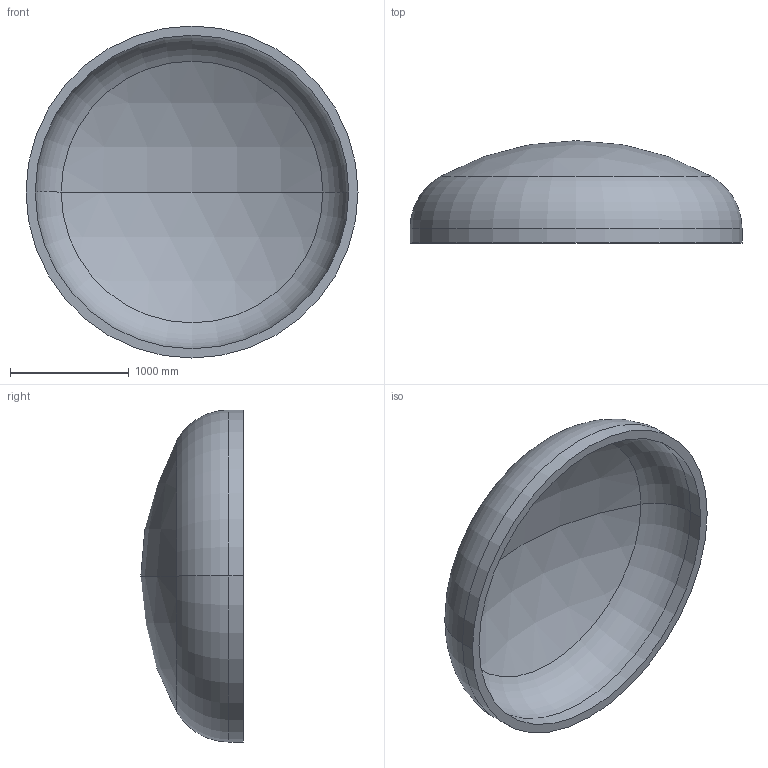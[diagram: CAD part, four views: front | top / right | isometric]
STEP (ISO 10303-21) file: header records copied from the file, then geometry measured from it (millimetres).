
FILE_DESCRIPTION (( 'STEP AP203' ), '1' );
FILE_NAME ('DIN 28013 Korbbogenform_-_Boden DIN 28013 - 2800 x 120 - I - s=78.step', '2016-07-01T17:11:37', ( '' ), ( '' ), 'SwSTEP 2.0', 'SolidWorks 2013', '' );
FILE_SCHEMA (( 'CONFIG_CONTROL_DESIGN' ));
Length unit declared in the file: millimetre
Products named in the file (1): DIN 28013 Korbbogenform_-_Boden DIN 28013 - 2800 x 120 - I - s=78
Bounding box: 2800 x 863.06 x 2800 mm (x, y, z)
Volume: 721060577.5 mm3; surface area: 19168479.5 mm2
Topology: 1 solids, 1 shells, 13 faces, 24 edges, 14 vertices
Faces by surface type: torus 4, cylinder 4, sphere 4, plane 1
Entity records: 407 total; most frequent: DIRECTION 72, CARTESIAN_POINT 52, ORIENTED_EDGE 48, AXIS2_PLACEMENT_3D 34, EDGE_CURVE 24, CIRCLE 20, EDGE_LOOP 14, VERTEX_POINT 14
